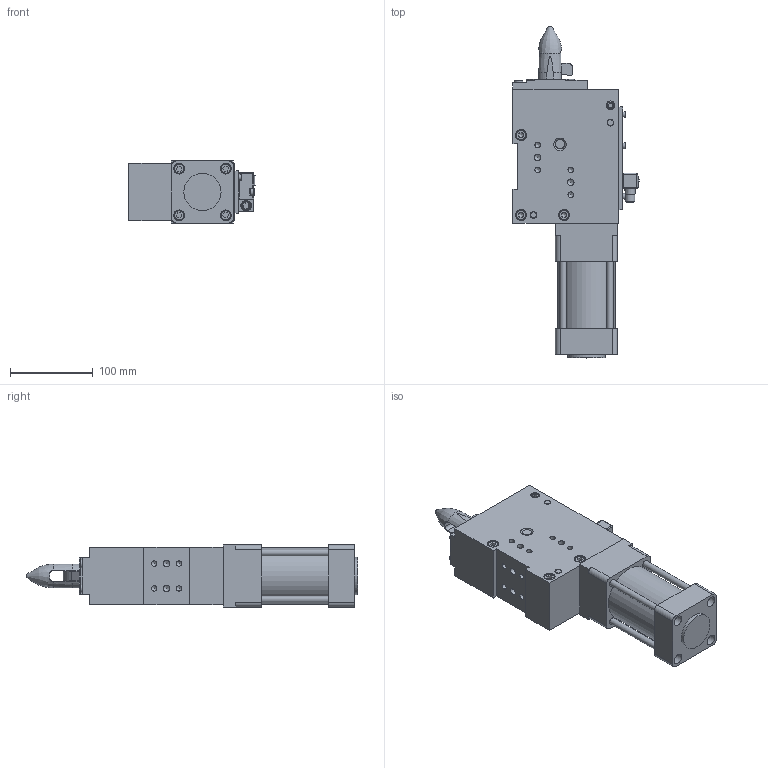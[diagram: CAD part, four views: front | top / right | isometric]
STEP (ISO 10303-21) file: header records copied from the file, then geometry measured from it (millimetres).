
FILE_DESCRIPTION(/* description */ (''),/* implementation_level */ '2;1');
FILE_NAME(/* name */ 'S:\Tom\INVENTOR FILES\INVENTOR WORKSPACE\AUTOMOTIVE\UNDERBODY CLAMPS\XLPV16\ANDY\SIMPLIFIED\2mm panel\STEP\renamed\XPCR63-ES1-F29-500-X01.stp',/* time_stamp */ '2018-06-29T11:20:22+01:00',/* author */ ('carl'),/* organization */ (''),/* preprocessor_version */ 'ST-DEVELOPER v16.13',/* originating_system */ 'Autodesk Inventor 2018',/* authorisation */ '');
FILE_SCHEMA (('AUTOMOTIVE_DESIGN { 1 0 10303 214 3 1 1 }'));
Length unit declared in the file: millimetre
Products named in the file (1): XPCR63-ES1-F29-500-X01
Bounding box: 152.72 x 401.24 x 75 mm (x, y, z)
Volume: 2263547.1 mm3; surface area: 189186.8 mm2
Topology: 1 solids, 1 shells, 831 faces, 2199 edges, 1431 vertices
Faces by surface type: plane 476, cylinder 234, cone 75, torus 30, sphere 9, bspline 7
Full cylindrical faces by diameter (mm): 0.7 x4, 2 x1, 2.5 x1, 3 x2, 3.18 x2, 3.2 x2, 5.5 x4, 6 x14, 6.3 x4, 6.647 x12, 7 x5, 8 x14, 8.4 x4, 8.5 x9, 9.5 x1, 9.8 x2, 10 x5, 10.5 x1, 11 x4, 11.7 x1, 12 x4, 12.75 x4, 13 x11, 13.5 x3, 14.95 x2, 45 x1, 69 x1
Entity records: 29198 total; most frequent: CARTESIAN_POINT 9952, DIRECTION 3942, ORIENTED_EDGE 3804, EDGE_CURVE 1902, AXIS2_PLACEMENT_3D 1457, VERTEX_POINT 1340, EDGE_LOOP 1154, LINE 1028
